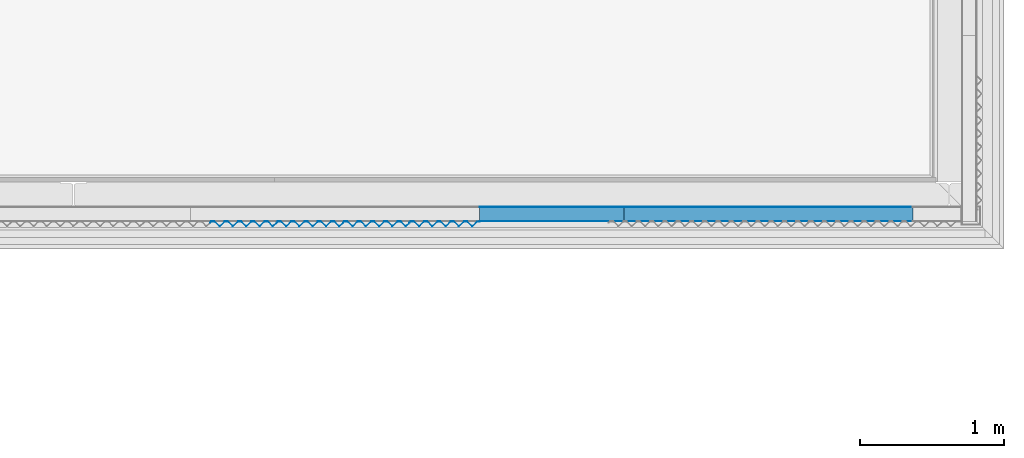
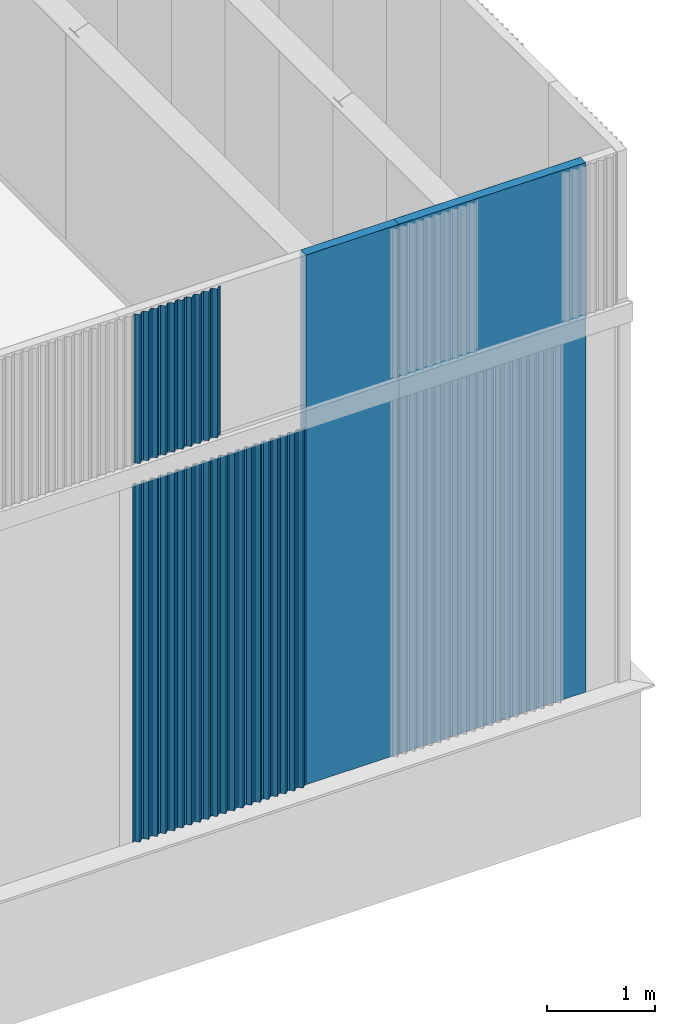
# One storey, part 100 of 338: 12 building element parts, 5 elements without a shape of their own.
"""IFC2X3 building model written with IfcOpenShell, lengths in millimetres."""

from ifc_helpers import new_model, entity, si_unit, converted_unit, derived_unit, money_unit, direction, frame, origin_with_axes, place, context, subcontext, project, spatial, faceted_brep, material, type_object, element, aggregate, save


model = new_model("IFC2X3")

# Units and contexts
model_context = context("Model", 3, precision=0.01, world=origin_with_axes(), true_north=direction((0.0, 1.0)))
plan_context = context("Plan", 3, precision=0.01, world=origin_with_axes(), true_north=direction((0.0, 1.0)))
body_context = subcontext(model_context, "Body", "Model", "MODEL_VIEW")
ifc_project = project(units=[si_unit("LENGTHUNIT", "METRE", prefix="MILLI"), si_unit("AREAUNIT", "SQUARE_METRE"), si_unit("VOLUMEUNIT", "CUBIC_METRE"), converted_unit("PLANEANGLEUNIT", "DEGREE", entity("IfcPlaneAngleMeasure", 0.0174532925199), si_unit("PLANEANGLEUNIT", "RADIAN"), dimensions=[0, 0, 0, 0, 0, 0, 0]), money_unit("EUR"), converted_unit("TIMEUNIT", "Year", entity("IfcTimeMeasure", 31556926.0), si_unit("TIMEUNIT", "SECOND"), dimensions=[0, 0, 1, 0, 0, 0, 0]), si_unit("MASSUNIT", "GRAM", prefix="KILO"), si_unit("THERMODYNAMICTEMPERATUREUNIT", "DEGREE_CELSIUS"), si_unit("LUMINOUSINTENSITYUNIT", "LUMEN"), si_unit("ENERGYUNIT", "JOULE", prefix="MEGA"), derived_unit("THERMALCONDUCTANCEUNIT", [(si_unit("POWERUNIT", "WATT"), 1), (si_unit("LENGTHUNIT", "METRE"), -1), (si_unit("THERMODYNAMICTEMPERATUREUNIT", "KELVIN"), -1)]), derived_unit("SPECIFICHEATCAPACITYUNIT", [(si_unit("ENERGYUNIT", "JOULE"), 1), (si_unit("MASSUNIT", "GRAM", prefix="KILO"), -1), (si_unit("THERMODYNAMICTEMPERATUREUNIT", "KELVIN"), -1)]), derived_unit("MASSDENSITYUNIT", [(si_unit("MASSUNIT", "GRAM", prefix="KILO"), 1), (si_unit("VOLUMEUNIT", "CUBIC_METRE"), -1)])], contexts=[model_context, plan_context])

# Site, building, storey
site_placement = place(None, origin_with_axes())
site = spatial("IfcSite", under=ifc_project, at=site_placement, Name="Fortuinstraat Woensdrecht", CompositionType="ELEMENT")
building_placement = place(site_placement, origin_with_axes())
building = spatial("IfcBuilding", under=site, at=building_placement, Name="IKC Fortuna", CompositionType="ELEMENT")
storey_placement = place(building_placement, origin_with_axes())
storey = spatial("IfcBuildingStorey", under=building, at=storey_placement, Name="00 begane grond", CompositionType="ELEMENT", Elevation=0.0)

# Wall, building element parts
wall_type = type_object("IfcWallType", Name="21 sandwich 100", PredefinedType="NOTDEFINED")
wall_1_placement = place(storey_placement, frame((59093.4131798, 20996.2966283, 1000.0), z_axis=(0.0, 0.0, 1.0), x_axis=(-1.0, 0.0, 0.0)))
wall_1 = element("IfcWall", 1, at=wall_1_placement, inside=storey, type_object=wall_type, Name="21_Wand_sandwichplaat")
ifc_material_1 = material(Name="Metaal - Aluminium")
building_element_part_1_placement = place(wall_1_placement, origin_with_axes())
building_element_part_1 = element("IfcBuildingElementPart", 2, at=building_element_part_1_placement, material=ifc_material_1, Name="Metaal - Aluminium", context=body_context, shape_type="Brep", body=[
    faceted_brep([(0.0, 99.0, 6000.0), (2000.0, 99.0, 6000.0), (2000.0, 100.0, 6000.0), (0.0, 100.0, 6000.0), (0.0, 99.0, 0.0), (2000.0, 99.0, 0.0), (2000.0, 100.0, 0.0), (0.0, 100.0, 0.0)], [[[0, 1, 2, 3]], [[4, 5, 1, 0]], [[2, 1, 5, 6]], [[3, 2, 6, 7]], [[4, 0, 3, 7]], [[7, 6, 5, 4]]]),
])
ifc_material_2 = material(Name="Isolatie - Kunststof hard")
building_element_part_2_placement = place(wall_1_placement, origin_with_axes())
building_element_part_2 = element("IfcBuildingElementPart", 3, at=building_element_part_2_placement, material=ifc_material_2, Name="Isolatie - Kunststof hard", context=body_context, shape_type="Brep", body=[
    faceted_brep([(2000.0, 1.0, 6000.0), (2000.0, 99.0, 6000.0), (0.0, 99.0, 6000.0), (0.0, 1.0, 6000.0), (2000.0, 1.0, 0.0), (2000.0, 99.0, 0.0), (0.0, 99.0, 0.0), (0.0, 1.0, 0.0)], [[[0, 1, 2, 3]], [[0, 4, 5, 1]], [[1, 5, 6, 2]], [[3, 2, 6, 7]], [[4, 0, 3, 7]], [[5, 4, 7, 6]]]),
])
building_element_part_3_placement = place(wall_1_placement, origin_with_axes())
building_element_part_3 = element("IfcBuildingElementPart", 4, at=building_element_part_3_placement, material=ifc_material_1, Name="Metaal - Aluminium", context=body_context, shape_type="Brep", body=[
    faceted_brep([(2000.0, 0.0, 18.9263474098), (2000.0, 0.999999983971, 18.9261694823), (2000.0, 1.0, 6000.0), (2000.0, 0.0, 6000.0), (845.055031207, 0.0, 18.9263474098), (763.015383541, 0.0, 18.9263474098), (0.0, -1.20792265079e-10, 18.9263474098), (0.0, 0.999999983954, 18.9261694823), (0.0, 1.0, 6000.0), (0.0, 0.0, 6000.0)], [[[0, 1, 2, 3]], [[1, 0, 4, 5, 6, 7]], [[2, 1, 7, 8]], [[3, 2, 8, 9]], [[0, 3, 9, 6, 5, 4]], [[6, 9, 8, 7]]]),
])
aggregate(wall_1, [building_element_part_1, building_element_part_2, building_element_part_3])

wall_2_placement = place(storey_placement, frame((57093.4131798, 20996.2966283, 1000.0), z_axis=(0.0, 0.0, 1.0), x_axis=(-1.0, 0.0, 0.0)))
wall_2 = element("IfcWall", 5, at=wall_2_placement, inside=storey, type_object=wall_type, Name="21_Wand_sandwichplaat")
building_element_part_4_placement = place(wall_2_placement, origin_with_axes())
building_element_part_4 = element("IfcBuildingElementPart", 6, at=building_element_part_4_placement, material=ifc_material_1, Name="Metaal - Aluminium", context=body_context, shape_type="Brep", body=[
    faceted_brep([(0.0, 99.0, 6000.0), (1000.0, 99.0, 6000.0), (1000.0, 100.0, 6000.0), (0.0, 100.0, 6000.0), (0.0, 99.0, 0.0), (1000.0, 99.0, 0.0), (1000.0, 100.0, 0.0), (0.0, 100.0, 0.0)], [[[0, 1, 2, 3]], [[4, 5, 1, 0]], [[2, 1, 5, 6]], [[3, 2, 6, 7]], [[4, 0, 3, 7]], [[7, 6, 5, 4]]]),
])
building_element_part_5_placement = place(wall_2_placement, origin_with_axes())
building_element_part_5 = element("IfcBuildingElementPart", 7, at=building_element_part_5_placement, material=ifc_material_2, Name="Isolatie - Kunststof hard", context=body_context, shape_type="Brep", body=[
    faceted_brep([(1000.0, 1.0, 6000.0), (1000.0, 99.0, 6000.0), (0.0, 99.0, 6000.0), (0.0, 1.0, 6000.0), (1000.0, 1.0, 0.0), (1000.0, 99.0, 0.0), (0.0, 99.0, 0.0), (0.0, 1.0, 0.0)], [[[0, 1, 2, 3]], [[0, 4, 5, 1]], [[1, 5, 6, 2]], [[3, 2, 6, 7]], [[4, 0, 3, 7]], [[5, 4, 7, 6]]]),
])
building_element_part_6_placement = place(wall_2_placement, origin_with_axes())
building_element_part_6 = element("IfcBuildingElementPart", 8, at=building_element_part_6_placement, material=ifc_material_1, Name="Metaal - Aluminium", context=body_context, shape_type="Brep", body=[
    faceted_brep([(1000.0, 1.0, 6000.0), (1000.0, 0.999999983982, 18.9261694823), (0.0, 0.999999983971, 18.9261694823), (0.0, 1.0, 6000.0), (1000.0, 0.0, 18.9263474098), (1000.0, 0.0, 6000.0), (0.0, 0.0, 18.9263474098), (0.0, 0.0, 6000.0)], [[[0, 1, 2, 3]], [[4, 1, 0, 5]], [[1, 4, 6, 2]], [[3, 2, 6, 7]], [[5, 0, 3, 7]], [[4, 5, 7, 6]]]),
])
aggregate(wall_2, [building_element_part_4, building_element_part_5, building_element_part_6])

# Proxy, building element parts
building_element_proxy_type = type_object("IfcBuildingElementProxyType", Name="21 Sandwich custom pyramid 946 x 37", PredefinedType="NOTDEFINED")
proxy_1_placement = place(storey_placement, frame((56094.9270571, 20896.2966283, 1000.0), z_axis=(0.0, 0.0, 1.0), x_axis=(-1.0, 0.0, 0.0)))
proxy_1 = element("IfcBuildingElementProxy", 9, at=proxy_1_placement, inside=storey, type_object=building_element_proxy_type, Name="41_Generieke bekleding & afwerking buiten_sandwich custom pyramid")
building_element_part_7_placement = place(proxy_1_placement, origin_with_axes())
building_element_part_7 = element("IfcBuildingElementPart", 10, at=building_element_part_7_placement, material=ifc_material_1, Name="Metaal - Aluminium", context=body_context, shape_type="Brep", body=[
    faceted_brep([(0.0, 2.39999686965, 0.0), (0.0, 1.20000548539, 0.0), (0.0, 1.20000548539, 4060.85690076), (0.0, 2.39999686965, 4060.85690076), (16.7470988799, 2.39999686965, 0.0), (52.0000026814, 36.6736482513, 0.0), (88.487191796, 1.20000548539, 0.0), (107.51282048, 1.20000548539, 0.0), (143.999995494, 36.6736482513, 0.0), (180.487184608, 1.20000548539, 0.0), (199.512813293, 1.20000548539, 0.0), (236.000002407, 36.6736482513, 0.0), (272.487191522, 1.20000548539, 0.0), (291.512820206, 1.20000548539, 0.0), (327.99999522, 36.6736482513, 0.0), (364.487184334, 1.20000548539, 0.0), (383.512813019, 1.20000548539, 0.0), (420.000002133, 36.6736482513, 0.0), (456.487191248, 1.20000548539, 0.0), (460.000006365, 1.20000548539, 0.0), (477.23428491, 1.20000548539, 0.0), (485.472879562, 9.20975302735, 0.0), (486.309372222, 8.34935896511, 0.0), (477.721464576, 0.0, 0.0), (455.999997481, 0.0, 0.0), (420.000002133, 35.0000001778, 0.0), (384.000006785, 0.0, 0.0), (364.000004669, 0.0, 0.0), (327.99999522, 35.0000001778, 0.0), (291.999999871, 0.0, 0.0), (271.999997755, 0.0, 0.0), (236.000002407, 35.0000001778, 0.0), (199.999992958, 0.0, 0.0), (180.000004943, 0.0, 0.0), (143.999995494, 35.0000001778, 0.0), (108.000000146, 0.0, 0.0), (87.9999980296, 0.0, 0.0), (52.0000026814, 35.0000001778, 0.0), (17.2342926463, 1.20000548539, 0.0), (17.2342926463, 1.20000548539, 4060.85690076), (52.0000026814, 35.0000001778, 4060.85690076), (87.9999980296, 0.0, 4060.85690076), (108.000000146, 0.0, 4060.85690076), (143.999995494, 35.0000001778, 4060.85690076), (180.000004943, 0.0, 4060.85690076), (199.999992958, 0.0, 4060.85690076), (236.000002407, 35.0000001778, 4060.85690076), (271.999997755, 0.0, 4060.85690076), (291.999999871, 0.0, 4060.85690076), (327.99999522, 35.0000001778, 4060.85690076), (364.000004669, 0.0, 4060.85690076), (384.000006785, 0.0, 4060.85690076), (420.000002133, 35.0000001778, 4060.85690076), (455.999997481, 0.0, 4060.85690076), (477.721464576, 0.0, 4060.85690076), (486.309372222, 8.34935896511, 4060.85690076), (485.472879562, 9.20975302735, 4060.85690076), (477.23428491, 1.20000548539, 4060.85690076), (460.000006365, 1.20000548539, 4060.85690076), (456.487191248, 1.20000548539, 4060.85690076), (420.000002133, 36.6736482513, 4060.85690076), (383.512813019, 1.20000548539, 4060.85690076), (364.487184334, 1.20000548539, 4060.85690076), (327.99999522, 36.6736482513, 4060.85690076), (291.512820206, 1.20000548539, 4060.85690076), (272.487191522, 1.20000548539, 4060.85690076), (236.000002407, 36.6736482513, 4060.85690076), (199.512813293, 1.20000548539, 4060.85690076), (180.487184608, 1.20000548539, 4060.85690076), (143.999995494, 36.6736482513, 4060.85690076), (107.51282048, 1.20000548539, 4060.85690076), (88.487191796, 1.20000548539, 4060.85690076), (52.0000026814, 36.6736482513, 4060.85690076), (16.7470988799, 2.39999686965, 4060.85690076)], [[[0, 1, 2, 3]], [[0, 4, 5, 6, 7, 8, 9, 10, 11, 12, 13, 14, 15, 16, 17, 18, 19, 20, 21, 22, 23, 24, 25, 26, 27, 28, 29, 30, 31, 32, 33, 34, 35, 36, 37, 38, 1]], [[1, 38, 39, 2]], [[3, 2, 39, 40, 41, 42, 43, 44, 45, 46, 47, 48, 49, 50, 51, 52, 53, 54, 55, 56, 57, 58, 59, 60, 61, 62, 63, 64, 65, 66, 67, 68, 69, 70, 71, 72, 73]], [[4, 0, 3, 73]], [[5, 4, 73, 72]], [[6, 5, 72, 71]], [[7, 6, 71, 70]], [[8, 7, 70, 69]], [[9, 8, 69, 68]], [[10, 9, 68, 67]], [[11, 10, 67, 66]], [[12, 11, 66, 65]], [[13, 12, 65, 64]], [[14, 13, 64, 63]], [[15, 14, 63, 62]], [[16, 15, 62, 61]], [[17, 16, 61, 60]], [[18, 17, 60, 59]], [[19, 18, 59, 58]], [[20, 19, 58, 57]], [[21, 20, 57, 56]], [[22, 21, 56, 55]], [[23, 22, 55, 54]], [[24, 23, 54, 53]], [[25, 24, 53, 52]], [[26, 25, 52, 51]], [[27, 26, 51, 50]], [[28, 27, 50, 49]], [[29, 28, 49, 48]], [[30, 29, 48, 47]], [[31, 30, 47, 46]], [[32, 31, 46, 45]], [[33, 32, 45, 44]], [[34, 33, 44, 43]], [[35, 34, 43, 42]], [[36, 35, 42, 41]], [[37, 36, 41, 40]], [[38, 37, 40, 39]]]),
])
building_element_part_8_placement = place(proxy_1_placement, origin_with_axes())
building_element_part_8 = element("IfcBuildingElementPart", 11, at=building_element_part_8_placement, material=ifc_material_1, Name="Metaal - Aluminium", context=body_context, shape_type="Brep", body=[
    faceted_brep([(460.0, 1.2, 0.0), (477.234285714, 1.2, 0.0), (477.234285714, 1.2, 4060.85690076), (460.0, 1.2, 4060.85690076), (460.0, 2.4, 0.0), (476.747100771, 2.4, 0.0), (512.0, 36.6736520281, 0.0), (548.487184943, 1.2, 0.0), (567.512815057, 1.2, 0.0), (604.0, 36.6736520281, 0.0), (640.487184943, 1.2, 0.0), (659.512815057, 1.2, 0.0), (696.0, 36.6736520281, 0.0), (732.487184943, 1.2, 0.0), (751.512815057, 1.2, 0.0), (788.0, 36.6736520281, 0.0), (824.487184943, 1.2, 0.0), (843.512815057, 1.2, 0.0), (880.0, 36.6736520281, 0.0), (916.487184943, 1.2, 0.0), (937.234285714, 1.2, 0.0), (945.472884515, 9.20974883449, 0.0), (946.309378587, 8.34935493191, 0.0), (937.721470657, 0.0, 0.0), (916.0, 0.0, 0.0), (880.0, 35.0, 0.0), (844.0, 0.0, 0.0), (824.0, 0.0, 0.0), (788.0, 35.0, 0.0), (752.0, 0.0, 0.0), (732.0, 0.0, 0.0), (696.0, 35.0, 0.0), (660.0, 0.0, 0.0), (640.0, 0.0, 0.0), (604.0, 35.0, 0.0), (568.0, 0.0, 0.0), (548.0, 0.0, 0.0), (512.0, 35.0, 0.0), (485.472879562, 9.20975302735, 0.0), (485.472879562, 9.20975302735, 4060.85690076), (512.0, 35.0, 4060.85690076), (548.0, 0.0, 4060.85690076), (568.0, 0.0, 4060.85690076), (604.0, 35.0, 4060.85690076), (640.0, 0.0, 4060.85690076), (660.0, 0.0, 4060.85690076), (696.0, 35.0, 4060.85690076), (732.0, 0.0, 4060.85690076), (752.0, 0.0, 4060.85690076), (788.0, 35.0, 4060.85690076), (824.0, 0.0, 4060.85690076), (844.0, 0.0, 4060.85690076), (880.0, 35.0, 4060.85690076), (916.0, 0.0, 4060.85690076), (937.721470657, 0.0, 4060.85690076), (946.309378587, 8.34935493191, 4060.85690076), (945.472884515, 9.20974883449, 4060.85690076), (937.234285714, 1.2, 4060.85690076), (916.487184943, 1.2, 4060.85690076), (880.0, 36.6736520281, 4060.85690076), (843.512815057, 1.2, 4060.85690076), (824.487184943, 1.2, 4060.85690076), (788.0, 36.6736520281, 4060.85690076), (751.512815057, 1.2, 4060.85690076), (732.487184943, 1.2, 4060.85690076), (696.0, 36.6736520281, 4060.85690076), (659.512815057, 1.2, 4060.85690076), (640.487184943, 1.2, 4060.85690076), (604.0, 36.6736520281, 4060.85690076), (567.512815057, 1.2, 4060.85690076), (548.487184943, 1.2, 4060.85690076), (512.0, 36.6736520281, 4060.85690076), (476.747100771, 2.4, 4060.85690076), (460.0, 2.4, 4060.85690076)], [[[0, 1, 2, 3]], [[0, 4, 5, 6, 7, 8, 9, 10, 11, 12, 13, 14, 15, 16, 17, 18, 19, 20, 21, 22, 23, 24, 25, 26, 27, 28, 29, 30, 31, 32, 33, 34, 35, 36, 37, 38, 1]], [[1, 38, 39, 2]], [[3, 2, 39, 40, 41, 42, 43, 44, 45, 46, 47, 48, 49, 50, 51, 52, 53, 54, 55, 56, 57, 58, 59, 60, 61, 62, 63, 64, 65, 66, 67, 68, 69, 70, 71, 72, 73]], [[4, 0, 3, 73]], [[5, 4, 73, 72]], [[6, 5, 72, 71]], [[7, 6, 71, 70]], [[8, 7, 70, 69]], [[9, 8, 69, 68]], [[10, 9, 68, 67]], [[11, 10, 67, 66]], [[12, 11, 66, 65]], [[13, 12, 65, 64]], [[14, 13, 64, 63]], [[15, 14, 63, 62]], [[16, 15, 62, 61]], [[17, 16, 61, 60]], [[18, 17, 60, 59]], [[19, 18, 59, 58]], [[20, 19, 58, 57]], [[21, 20, 57, 56]], [[22, 21, 56, 55]], [[23, 22, 55, 54]], [[24, 23, 54, 53]], [[25, 24, 53, 52]], [[26, 25, 52, 51]], [[27, 26, 51, 50]], [[28, 27, 50, 49]], [[29, 28, 49, 48]], [[30, 29, 48, 47]], [[31, 30, 47, 46]], [[32, 31, 46, 45]], [[33, 32, 45, 44]], [[34, 33, 44, 43]], [[35, 34, 43, 42]], [[36, 35, 42, 41]], [[37, 36, 41, 40]], [[38, 37, 40, 39]]]),
])
aggregate(proxy_1, [building_element_part_7, building_element_part_8])

proxy_2_placement = place(storey_placement, frame((55174.9270571, 20896.2966283, 1000.0), z_axis=(0.0, 0.0, 1.0), x_axis=(-1.0, 0.0, 0.0)))
proxy_2 = element("IfcBuildingElementProxy", 12, at=proxy_2_placement, inside=storey, type_object=building_element_proxy_type, Name="41_Generieke bekleding & afwerking buiten_sandwich custom pyramid")
building_element_part_9_placement = place(proxy_2_placement, origin_with_axes())
building_element_part_9 = element("IfcBuildingElementPart", 13, at=building_element_part_9_placement, material=ifc_material_1, Name="Metaal - Aluminium", context=body_context, shape_type="Brep", body=[
    faceted_brep([(0.0, 2.39999686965, 0.0), (0.0, 1.20000548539, 0.0), (0.0, 1.20000548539, 4060.85690076), (0.0, 2.39999686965, 4060.85690076), (16.7470988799, 2.39999686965, 0.0), (52.0000026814, 36.6736482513, 0.0), (88.487191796, 1.20000548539, 0.0), (107.51282048, 1.20000548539, 0.0), (143.999995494, 36.6736482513, 0.0), (180.487184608, 1.20000548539, 0.0), (199.512813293, 1.20000548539, 0.0), (236.000002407, 36.6736482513, 0.0), (272.487191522, 1.20000548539, 0.0), (291.512820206, 1.20000548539, 0.0), (327.99999522, 36.6736482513, 0.0), (364.487184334, 1.20000548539, 0.0), (383.512813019, 1.20000548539, 0.0), (420.000002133, 36.6736482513, 0.0), (456.487191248, 1.20000548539, 0.0), (460.000006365, 1.20000548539, 0.0), (477.23428491, 1.20000548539, 0.0), (485.472879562, 9.20975302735, 0.0), (486.309372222, 8.34935896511, 0.0), (477.721464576, 0.0, 0.0), (455.999997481, 0.0, 0.0), (420.000002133, 35.0000001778, 0.0), (384.000006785, 0.0, 0.0), (364.000004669, 0.0, 0.0), (327.99999522, 35.0000001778, 0.0), (291.999999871, 0.0, 0.0), (271.999997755, 0.0, 0.0), (236.000002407, 35.0000001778, 0.0), (199.999992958, 0.0, 0.0), (180.000004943, 0.0, 0.0), (143.999995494, 35.0000001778, 0.0), (108.000000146, 0.0, 0.0), (87.9999980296, 0.0, 0.0), (52.0000026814, 35.0000001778, 0.0), (17.2342926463, 1.20000548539, 0.0), (17.2342926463, 1.20000548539, 4060.85690076), (52.0000026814, 35.0000001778, 4060.85690076), (87.9999980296, 0.0, 4060.85690076), (108.000000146, 0.0, 4060.85690076), (143.999995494, 35.0000001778, 4060.85690076), (180.000004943, 0.0, 4060.85690076), (199.999992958, 0.0, 4060.85690076), (236.000002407, 35.0000001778, 4060.85690076), (271.999997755, 0.0, 4060.85690076), (291.999999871, 0.0, 4060.85690076), (327.99999522, 35.0000001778, 4060.85690076), (364.000004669, 0.0, 4060.85690076), (384.000006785, 0.0, 4060.85690076), (420.000002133, 35.0000001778, 4060.85690076), (455.999997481, 0.0, 4060.85690076), (477.721464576, 0.0, 4060.85690076), (486.309372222, 8.34935896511, 4060.85690076), (485.472879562, 9.20975302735, 4060.85690076), (477.23428491, 1.20000548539, 4060.85690076), (460.000006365, 1.20000548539, 4060.85690076), (456.487191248, 1.20000548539, 4060.85690076), (420.000002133, 36.6736482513, 4060.85690076), (383.512813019, 1.20000548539, 4060.85690076), (364.487184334, 1.20000548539, 4060.85690076), (327.99999522, 36.6736482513, 4060.85690076), (291.512820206, 1.20000548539, 4060.85690076), (272.487191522, 1.20000548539, 4060.85690076), (236.000002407, 36.6736482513, 4060.85690076), (199.512813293, 1.20000548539, 4060.85690076), (180.487184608, 1.20000548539, 4060.85690076), (143.999995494, 36.6736482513, 4060.85690076), (107.51282048, 1.20000548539, 4060.85690076), (88.487191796, 1.20000548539, 4060.85690076), (52.0000026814, 36.6736482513, 4060.85690076), (16.7470988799, 2.39999686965, 4060.85690076)], [[[0, 1, 2, 3]], [[0, 4, 5, 6, 7, 8, 9, 10, 11, 12, 13, 14, 15, 16, 17, 18, 19, 20, 21, 22, 23, 24, 25, 26, 27, 28, 29, 30, 31, 32, 33, 34, 35, 36, 37, 38, 1]], [[1, 38, 39, 2]], [[3, 2, 39, 40, 41, 42, 43, 44, 45, 46, 47, 48, 49, 50, 51, 52, 53, 54, 55, 56, 57, 58, 59, 60, 61, 62, 63, 64, 65, 66, 67, 68, 69, 70, 71, 72, 73]], [[4, 0, 3, 73]], [[5, 4, 73, 72]], [[6, 5, 72, 71]], [[7, 6, 71, 70]], [[8, 7, 70, 69]], [[9, 8, 69, 68]], [[10, 9, 68, 67]], [[11, 10, 67, 66]], [[12, 11, 66, 65]], [[13, 12, 65, 64]], [[14, 13, 64, 63]], [[15, 14, 63, 62]], [[16, 15, 62, 61]], [[17, 16, 61, 60]], [[18, 17, 60, 59]], [[19, 18, 59, 58]], [[20, 19, 58, 57]], [[21, 20, 57, 56]], [[22, 21, 56, 55]], [[23, 22, 55, 54]], [[24, 23, 54, 53]], [[25, 24, 53, 52]], [[26, 25, 52, 51]], [[27, 26, 51, 50]], [[28, 27, 50, 49]], [[29, 28, 49, 48]], [[30, 29, 48, 47]], [[31, 30, 47, 46]], [[32, 31, 46, 45]], [[33, 32, 45, 44]], [[34, 33, 44, 43]], [[35, 34, 43, 42]], [[36, 35, 42, 41]], [[37, 36, 41, 40]], [[38, 37, 40, 39]]]),
])
building_element_part_10_placement = place(proxy_2_placement, origin_with_axes())
building_element_part_10 = element("IfcBuildingElementPart", 14, at=building_element_part_10_placement, material=ifc_material_1, Name="Metaal - Aluminium", context=body_context, shape_type="Brep", body=[
    faceted_brep([(460.0, 1.2, 0.0), (477.234285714, 1.2, 0.0), (477.234285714, 1.2, 4060.85690076), (460.0, 1.2, 4060.85690076), (460.0, 2.4, 0.0), (476.747100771, 2.4, 0.0), (512.0, 36.6736520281, 0.0), (548.487184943, 1.2, 0.0), (567.512815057, 1.2, 0.0), (604.0, 36.6736520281, 0.0), (640.487184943, 1.2, 0.0), (659.512815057, 1.2, 0.0), (696.0, 36.6736520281, 0.0), (732.487184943, 1.2, 0.0), (751.512815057, 1.2, 0.0), (788.0, 36.6736520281, 0.0), (824.487184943, 1.2, 0.0), (843.512815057, 1.2, 0.0), (880.0, 36.6736520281, 0.0), (916.487184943, 1.2, 0.0), (937.234285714, 1.2, 0.0), (945.472884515, 9.20974883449, 0.0), (946.309378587, 8.34935493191, 0.0), (937.721470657, 0.0, 0.0), (916.0, 0.0, 0.0), (880.0, 35.0, 0.0), (844.0, 0.0, 0.0), (824.0, 0.0, 0.0), (788.0, 35.0, 0.0), (752.0, 0.0, 0.0), (732.0, 0.0, 0.0), (696.0, 35.0, 0.0), (660.0, 0.0, 0.0), (640.0, 0.0, 0.0), (604.0, 35.0, 0.0), (568.0, 0.0, 0.0), (548.0, 0.0, 0.0), (512.0, 35.0, 0.0), (485.472879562, 9.20975302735, 0.0), (485.472879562, 9.20975302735, 4060.85690076), (512.0, 35.0, 4060.85690076), (548.0, 0.0, 4060.85690076), (568.0, 0.0, 4060.85690076), (604.0, 35.0, 4060.85690076), (640.0, 0.0, 4060.85690076), (660.0, 0.0, 4060.85690076), (696.0, 35.0, 4060.85690076), (732.0, 0.0, 4060.85690076), (752.0, 0.0, 4060.85690076), (788.0, 35.0, 4060.85690076), (824.0, 0.0, 4060.85690076), (844.0, 0.0, 4060.85690076), (880.0, 35.0, 4060.85690076), (916.0, 0.0, 4060.85690076), (937.721470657, 0.0, 4060.85690076), (946.309378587, 8.34935493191, 4060.85690076), (945.472884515, 9.20974883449, 4060.85690076), (937.234285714, 1.2, 4060.85690076), (916.487184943, 1.2, 4060.85690076), (880.0, 36.6736520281, 4060.85690076), (843.512815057, 1.2, 4060.85690076), (824.487184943, 1.2, 4060.85690076), (788.0, 36.6736520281, 4060.85690076), (751.512815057, 1.2, 4060.85690076), (732.487184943, 1.2, 4060.85690076), (696.0, 36.6736520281, 4060.85690076), (659.512815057, 1.2, 4060.85690076), (640.487184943, 1.2, 4060.85690076), (604.0, 36.6736520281, 4060.85690076), (567.512815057, 1.2, 4060.85690076), (548.487184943, 1.2, 4060.85690076), (512.0, 36.6736520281, 4060.85690076), (476.747100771, 2.4, 4060.85690076), (460.0, 2.4, 4060.85690076)], [[[0, 1, 2, 3]], [[0, 4, 5, 6, 7, 8, 9, 10, 11, 12, 13, 14, 15, 16, 17, 18, 19, 20, 21, 22, 23, 24, 25, 26, 27, 28, 29, 30, 31, 32, 33, 34, 35, 36, 37, 38, 1]], [[1, 38, 39, 2]], [[3, 2, 39, 40, 41, 42, 43, 44, 45, 46, 47, 48, 49, 50, 51, 52, 53, 54, 55, 56, 57, 58, 59, 60, 61, 62, 63, 64, 65, 66, 67, 68, 69, 70, 71, 72, 73]], [[4, 0, 3, 73]], [[5, 4, 73, 72]], [[6, 5, 72, 71]], [[7, 6, 71, 70]], [[8, 7, 70, 69]], [[9, 8, 69, 68]], [[10, 9, 68, 67]], [[11, 10, 67, 66]], [[12, 11, 66, 65]], [[13, 12, 65, 64]], [[14, 13, 64, 63]], [[15, 14, 63, 62]], [[16, 15, 62, 61]], [[17, 16, 61, 60]], [[18, 17, 60, 59]], [[19, 18, 59, 58]], [[20, 19, 58, 57]], [[21, 20, 57, 56]], [[22, 21, 56, 55]], [[23, 22, 55, 54]], [[24, 23, 54, 53]], [[25, 24, 53, 52]], [[26, 25, 52, 51]], [[27, 26, 51, 50]], [[28, 27, 50, 49]], [[29, 28, 49, 48]], [[30, 29, 48, 47]], [[31, 30, 47, 46]], [[32, 31, 46, 45]], [[33, 32, 45, 44]], [[34, 33, 44, 43]], [[35, 34, 43, 42]], [[36, 35, 42, 41]], [[37, 36, 41, 40]], [[38, 37, 40, 39]]]),
])
aggregate(proxy_2, [building_element_part_9, building_element_part_10])

proxy_3_placement = place(storey_placement, frame((55174.9270571, 20896.2966283, 5289.99999237), z_axis=(0.0, 0.0, 1.0), x_axis=(-1.0, 0.0, 0.0)))
proxy_3 = element("IfcBuildingElementProxy", 15, at=proxy_3_placement, inside=storey, type_object=building_element_proxy_type, Name="41_Generieke bekleding & afwerking buiten_sandwich custom pyramid")
building_element_part_11_placement = place(proxy_3_placement, origin_with_axes())
building_element_part_11 = element("IfcBuildingElementPart", 16, at=building_element_part_11_placement, material=ifc_material_1, Name="Metaal - Aluminium", context=body_context, shape_type="Brep", body=[
    faceted_brep([(0.0, 2.39999686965, 0.0), (0.0, 1.20000548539, 0.0), (0.0, 1.20000548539, 1690.00000566), (0.0, 2.39999686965, 1690.00000566), (16.7470988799, 2.39999686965, 0.0), (52.0000026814, 36.6736482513, 0.0), (88.487191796, 1.20000548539, 0.0), (107.51282048, 1.20000548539, 0.0), (143.999995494, 36.6736482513, 0.0), (180.487184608, 1.20000548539, 0.0), (199.512813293, 1.20000548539, 0.0), (236.000002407, 36.6736482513, 0.0), (272.487191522, 1.20000548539, 0.0), (291.512820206, 1.20000548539, 0.0), (327.99999522, 36.6736482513, 0.0), (364.487184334, 1.20000548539, 0.0), (383.512813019, 1.20000548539, 0.0), (420.000002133, 36.6736482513, 0.0), (456.487191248, 1.20000548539, 0.0), (460.000006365, 1.20000548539, 0.0), (477.23428491, 1.20000548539, 0.0), (485.472879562, 9.20975302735, 0.0), (486.309372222, 8.34935896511, 0.0), (477.721464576, 0.0, 0.0), (455.999997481, 0.0, 0.0), (420.000002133, 35.0000001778, 0.0), (384.000006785, 0.0, 0.0), (364.000004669, 0.0, 0.0), (327.99999522, 35.0000001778, 0.0), (291.999999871, 0.0, 0.0), (271.999997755, 0.0, 0.0), (236.000002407, 35.0000001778, 0.0), (199.999992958, 0.0, 0.0), (180.000004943, 0.0, 0.0), (143.999995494, 35.0000001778, 0.0), (108.000000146, 0.0, 0.0), (87.9999980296, 0.0, 0.0), (52.0000026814, 35.0000001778, 0.0), (17.2342926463, 1.20000548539, 0.0), (17.2342926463, 1.20000548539, 1690.00000566), (52.0000026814, 35.0000001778, 1690.00000566), (87.9999980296, 0.0, 1690.00000566), (108.000000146, 0.0, 1690.00000566), (143.999995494, 35.0000001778, 1690.00000566), (180.000004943, 0.0, 1690.00000566), (199.999992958, 0.0, 1690.00000566), (236.000002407, 35.0000001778, 1690.00000566), (271.999997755, 0.0, 1690.00000566), (291.999999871, 0.0, 1690.00000566), (327.99999522, 35.0000001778, 1690.00000566), (364.000004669, 0.0, 1690.00000566), (384.000006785, 0.0, 1690.00000566), (420.000002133, 35.0000001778, 1690.00000566), (455.999997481, 0.0, 1690.00000566), (477.721464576, 0.0, 1690.00000566), (486.309372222, 8.34935896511, 1690.00000566), (485.472879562, 9.20975302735, 1690.00000566), (477.23428491, 1.20000548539, 1690.00000566), (460.000006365, 1.20000548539, 1690.00000566), (456.487191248, 1.20000548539, 1690.00000566), (420.000002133, 36.6736482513, 1690.00000566), (383.512813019, 1.20000548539, 1690.00000566), (364.487184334, 1.20000548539, 1690.00000566), (327.99999522, 36.6736482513, 1690.00000566), (291.512820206, 1.20000548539, 1690.00000566), (272.487191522, 1.20000548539, 1690.00000566), (236.000002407, 36.6736482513, 1690.00000566), (199.512813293, 1.20000548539, 1690.00000566), (180.487184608, 1.20000548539, 1690.00000566), (143.999995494, 36.6736482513, 1690.00000566), (107.51282048, 1.20000548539, 1690.00000566), (88.487191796, 1.20000548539, 1690.00000566), (52.0000026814, 36.6736482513, 1690.00000566), (16.7470988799, 2.39999686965, 1690.00000566)], [[[0, 1, 2, 3]], [[0, 4, 5, 6, 7, 8, 9, 10, 11, 12, 13, 14, 15, 16, 17, 18, 19, 20, 21, 22, 23, 24, 25, 26, 27, 28, 29, 30, 31, 32, 33, 34, 35, 36, 37, 38, 1]], [[1, 38, 39, 2]], [[3, 2, 39, 40, 41, 42, 43, 44, 45, 46, 47, 48, 49, 50, 51, 52, 53, 54, 55, 56, 57, 58, 59, 60, 61, 62, 63, 64, 65, 66, 67, 68, 69, 70, 71, 72, 73]], [[4, 0, 3, 73]], [[5, 4, 73, 72]], [[6, 5, 72, 71]], [[7, 6, 71, 70]], [[8, 7, 70, 69]], [[9, 8, 69, 68]], [[10, 9, 68, 67]], [[11, 10, 67, 66]], [[12, 11, 66, 65]], [[13, 12, 65, 64]], [[14, 13, 64, 63]], [[15, 14, 63, 62]], [[16, 15, 62, 61]], [[17, 16, 61, 60]], [[18, 17, 60, 59]], [[19, 18, 59, 58]], [[20, 19, 58, 57]], [[21, 20, 57, 56]], [[22, 21, 56, 55]], [[23, 22, 55, 54]], [[24, 23, 54, 53]], [[25, 24, 53, 52]], [[26, 25, 52, 51]], [[27, 26, 51, 50]], [[28, 27, 50, 49]], [[29, 28, 49, 48]], [[30, 29, 48, 47]], [[31, 30, 47, 46]], [[32, 31, 46, 45]], [[33, 32, 45, 44]], [[34, 33, 44, 43]], [[35, 34, 43, 42]], [[36, 35, 42, 41]], [[37, 36, 41, 40]], [[38, 37, 40, 39]]]),
])
building_element_part_12_placement = place(proxy_3_placement, origin_with_axes())
building_element_part_12 = element("IfcBuildingElementPart", 17, at=building_element_part_12_placement, material=ifc_material_1, Name="Metaal - Aluminium", context=body_context, shape_type="Brep", body=[
    faceted_brep([(460.0, 1.2, 0.0), (477.234285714, 1.2, 0.0), (477.234285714, 1.2, 1690.00000566), (460.0, 1.2, 1690.00000566), (460.0, 2.4, 0.0), (476.747100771, 2.4, 0.0), (512.0, 36.6736520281, 0.0), (548.487184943, 1.2, 0.0), (567.512815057, 1.2, 0.0), (604.0, 36.6736520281, 0.0), (640.487184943, 1.2, 0.0), (659.512815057, 1.2, 0.0), (696.0, 36.6736520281, 0.0), (732.487184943, 1.2, 0.0), (751.512815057, 1.2, 0.0), (788.0, 36.6736520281, 0.0), (824.487184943, 1.2, 0.0), (843.512815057, 1.2, 0.0), (880.0, 36.6736520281, 0.0), (916.487184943, 1.2, 0.0), (937.234285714, 1.2, 0.0), (945.472884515, 9.20974883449, 0.0), (946.309378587, 8.34935493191, 0.0), (937.721470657, 0.0, 0.0), (916.0, 0.0, 0.0), (880.0, 35.0, 0.0), (844.0, 0.0, 0.0), (824.0, 0.0, 0.0), (788.0, 35.0, 0.0), (752.0, 0.0, 0.0), (732.0, 0.0, 0.0), (696.0, 35.0, 0.0), (660.0, 0.0, 0.0), (640.0, 0.0, 0.0), (604.0, 35.0, 0.0), (568.0, 0.0, 0.0), (548.0, 0.0, 0.0), (512.0, 35.0, 0.0), (485.472879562, 9.20975302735, 0.0), (485.472879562, 9.20975302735, 1690.00000566), (512.0, 35.0, 1690.00000566), (548.0, 0.0, 1690.00000566), (568.0, 0.0, 1690.00000566), (604.0, 35.0, 1690.00000566), (640.0, 0.0, 1690.00000566), (660.0, 0.0, 1690.00000566), (696.0, 35.0, 1690.00000566), (732.0, 0.0, 1690.00000566), (752.0, 0.0, 1690.00000566), (788.0, 35.0, 1690.00000566), (824.0, 0.0, 1690.00000566), (844.0, 0.0, 1690.00000566), (880.0, 35.0, 1690.00000566), (916.0, 0.0, 1690.00000566), (937.721470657, 0.0, 1690.00000566), (946.309378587, 8.34935493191, 1690.00000566), (945.472884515, 9.20974883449, 1690.00000566), (937.234285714, 1.2, 1690.00000566), (916.487184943, 1.2, 1690.00000566), (880.0, 36.6736520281, 1690.00000566), (843.512815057, 1.2, 1690.00000566), (824.487184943, 1.2, 1690.00000566), (788.0, 36.6736520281, 1690.00000566), (751.512815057, 1.2, 1690.00000566), (732.487184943, 1.2, 1690.00000566), (696.0, 36.6736520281, 1690.00000566), (659.512815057, 1.2, 1690.00000566), (640.487184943, 1.2, 1690.00000566), (604.0, 36.6736520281, 1690.00000566), (567.512815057, 1.2, 1690.00000566), (548.487184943, 1.2, 1690.00000566), (512.0, 36.6736520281, 1690.00000566), (476.747100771, 2.4, 1690.00000566), (460.0, 2.4, 1690.00000566)], [[[0, 1, 2, 3]], [[0, 4, 5, 6, 7, 8, 9, 10, 11, 12, 13, 14, 15, 16, 17, 18, 19, 20, 21, 22, 23, 24, 25, 26, 27, 28, 29, 30, 31, 32, 33, 34, 35, 36, 37, 38, 1]], [[1, 38, 39, 2]], [[3, 2, 39, 40, 41, 42, 43, 44, 45, 46, 47, 48, 49, 50, 51, 52, 53, 54, 55, 56, 57, 58, 59, 60, 61, 62, 63, 64, 65, 66, 67, 68, 69, 70, 71, 72, 73]], [[4, 0, 3, 73]], [[5, 4, 73, 72]], [[6, 5, 72, 71]], [[7, 6, 71, 70]], [[8, 7, 70, 69]], [[9, 8, 69, 68]], [[10, 9, 68, 67]], [[11, 10, 67, 66]], [[12, 11, 66, 65]], [[13, 12, 65, 64]], [[14, 13, 64, 63]], [[15, 14, 63, 62]], [[16, 15, 62, 61]], [[17, 16, 61, 60]], [[18, 17, 60, 59]], [[19, 18, 59, 58]], [[20, 19, 58, 57]], [[21, 20, 57, 56]], [[22, 21, 56, 55]], [[23, 22, 55, 54]], [[24, 23, 54, 53]], [[25, 24, 53, 52]], [[26, 25, 52, 51]], [[27, 26, 51, 50]], [[28, 27, 50, 49]], [[29, 28, 49, 48]], [[30, 29, 48, 47]], [[31, 30, 47, 46]], [[32, 31, 46, 45]], [[33, 32, 45, 44]], [[34, 33, 44, 43]], [[35, 34, 43, 42]], [[36, 35, 42, 41]], [[37, 36, 41, 40]], [[38, 37, 40, 39]]]),
])
aggregate(proxy_3, [building_element_part_11, building_element_part_12])

save(model, "model.ifc")
